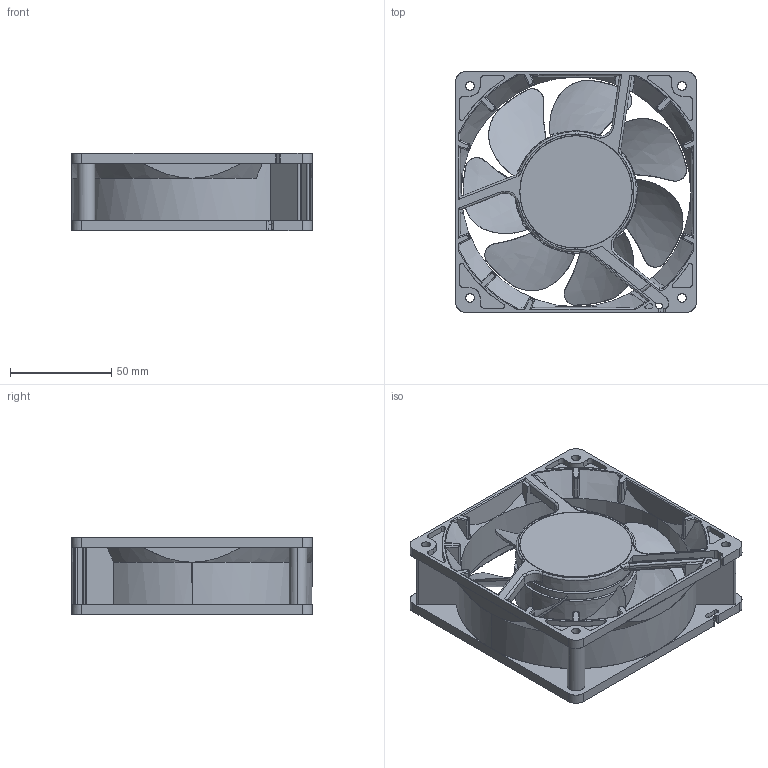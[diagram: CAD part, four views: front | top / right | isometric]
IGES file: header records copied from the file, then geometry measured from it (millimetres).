
Start section: SolidWorks IGES file using analytic representation for surfaces
Bounding box: 119 x 119 x 38.2 mm (x, y, z)
Surface area: 78964.1 mm2 (no closed solid volume)
Topology: 0 solids, 0 shells, 504 faces, 6153 edges, 6137 vertices
Faces by surface type: bspline 270, revolution 234
